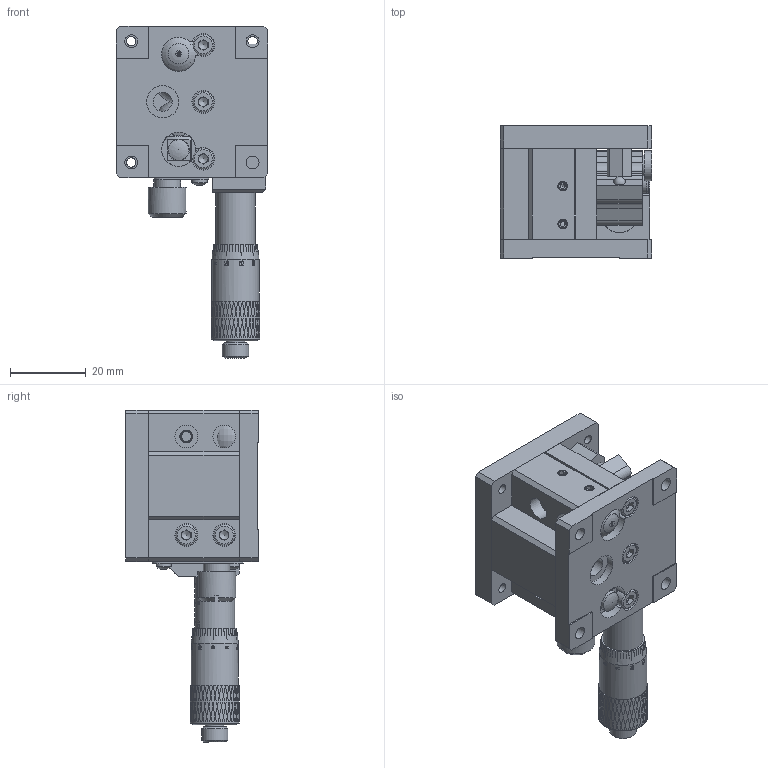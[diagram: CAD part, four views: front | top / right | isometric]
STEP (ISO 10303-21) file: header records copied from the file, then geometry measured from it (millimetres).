
FILE_DESCRIPTION (( 'STEP AP203' ), '1' );
FILE_NAME ('BLEZ40.STEP', '2024-07-02T01:14:45', ( 'Windows User' ), ( 'P R C' ), 'SwSTEP 2.0', 'SolidWorks 2024', '' );
FILE_SCHEMA (( 'CONFIG_CONTROL_DESIGN' ));
Products named in the file (1): BLEZ40
Bounding box: 40.05 x 35 x 87.57 mm (x, y, z)
Volume: 43144.4 mm3; surface area: 35197.9 mm2
Topology: 34 solids, 34 shells, 1552 faces, 3746 edges, 2389 vertices
Faces by surface type: plane 574, cylinder 402, bspline 369, cone 188, torus 15, sphere 4
Full cylindrical faces by diameter (mm): 1.6 x2, 2 x2, 2.4 x2, 2.5 x28, 2.55 x8, 2.95 x9, 3 x13, 3.2 x5, 3.4 x15, 4 x2, 4.4 x8, 5 x4, 5.5 x15, 6 x11, 7 x2, 8 x1, 8.5 x4, 9 x2, 9.5 x2, 10 x1, 10.5 x1, 12.5 x1
Entity records: 64185 total; most frequent: CARTESIAN_POINT 33377, ORIENTED_EDGE 6880, DIRECTION 4854, EDGE_CURVE 3440, VERTEX_POINT 2310, EDGE_LOOP 1998, AXIS2_PLACEMENT_3D 1883, FACE_OUTER_BOUND 1686
